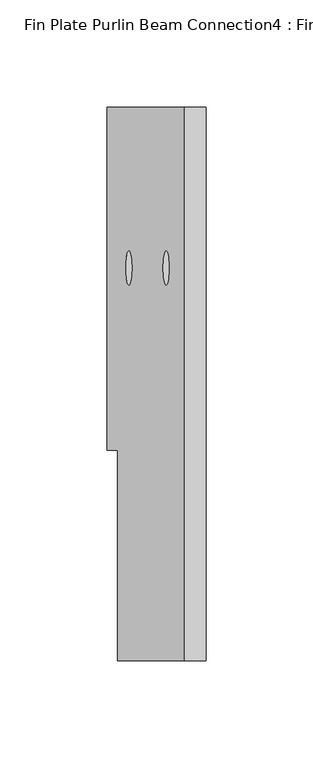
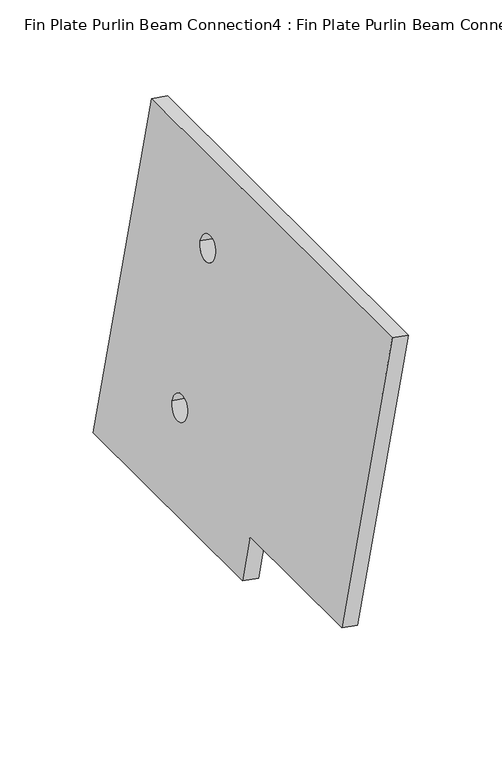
"""IFC4 building model written with IfcOpenShell, lengths in millimetres: proxy geometry, Fin Plate Purlin Beam Connection4 : Fin Plate Purlin Beam Connection."""

from ifc_helpers import new_model, si_unit, point, frame, frame_2d, origin, place, context, project, spatial, polyline, circle_curve, trimmed, segment, composite_curve, outline, extrude, source, transform, mapped, element, save


def fin_plate_purlin_beam_connection4_fin_plate_purlin_beam_8298a95b(model_context):
    return source(origin(), model_context, "Body", "SweptSolid", [
        extrude(outline(polyline([(181.2383862, 0.0), (181.2383862, -98.2), (208.9560483, -98.2), (208.9560483, -258.2), (0.0, -258.2), (0.0, 0.0), (181.2383862, 0.0)]), holes=[composite_curve([segment(trimmed(circle_curve(frame_2d((50.0, -183.2)), 8.0), [point((50.0, -175.2))], [point((50.0, -191.2))], True, "CARTESIAN"), True, "CONTINUOUS"), segment(trimmed(circle_curve(frame_2d((50.0, -183.2)), 8.0), [point((50.0, -191.2))], [point((50.0, -175.2))], True, "CARTESIAN"), True, "CONTINUOUS")], self_intersect=False), composite_curve([segment(trimmed(circle_curve(frame_2d((149.9999999, -183.2)), 8.0), [point((149.9999999, -175.2))], [point((149.9999999, -191.2))], True, "CARTESIAN"), True, "CONTINUOUS"), segment(trimmed(circle_curve(frame_2d((149.9999999, -183.2)), 8.0), [point((149.9999999, -191.2))], [point((149.9999999, -175.2))], True, "CARTESIAN"), True, "CONTINUOUS")], self_intersect=False)]), frame((-31910.9268079, 11055.4549517, 3454.4961306), z_axis=(-0.9848077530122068, 0.0, 0.17364817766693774), x_axis=(-0.17364817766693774, 0.0, -0.9848077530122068)), (0.0, 0.0, 1.0), 10.0),
    ])


if __name__ == "__main__":
    model = new_model("IFC4")
    model_context = context("Model", 3, world=origin())
    ifc_project = project(units=[si_unit("LENGTHUNIT", "METRE", prefix="MILLI")], contexts=[model_context])
    site = spatial("IfcSite", under=ifc_project)
    building = spatial("IfcBuilding", under=site)
    placement = place(None, origin())
    fin_plate_purlin_beam_connection4_fin_plate_purlin_beam_shape = fin_plate_purlin_beam_connection4_fin_plate_purlin_beam_8298a95b(model_context)
    element("IfcBuildingElementProxy", 1, Name="Fin Plate Purlin Beam Connection4 : Fin Plate Purlin Beam Connection", ObjectType="Fin Plate Purlin Beam Connection4 : Fin Plate Purlin Beam Connection", at=placement, inside=building, context=model_context, shape_type="MappedRepresentation", body=[
        mapped(fin_plate_purlin_beam_connection4_fin_plate_purlin_beam_shape, transform((0.0, 0.0, 0.0), x_axis=(1.0, 0.0, 0.0), y_axis=(0.0, 1.0, 0.0), z_axis=(0.0, 0.0, 1.0))),
    ])
    save(model, "model.ifc")
